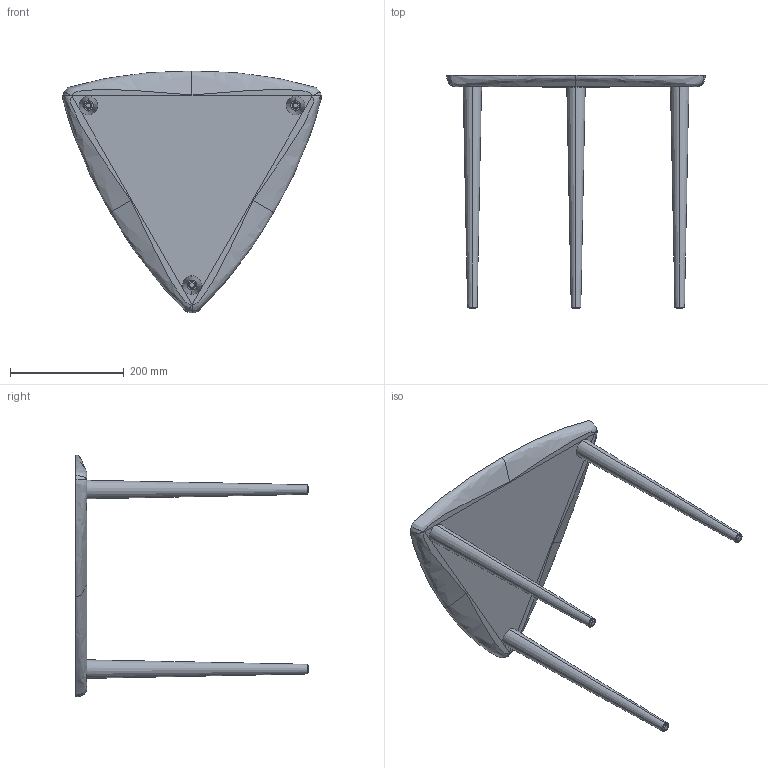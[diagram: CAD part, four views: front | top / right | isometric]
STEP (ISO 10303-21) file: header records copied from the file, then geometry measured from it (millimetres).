
FILE_DESCRIPTION (( 'STEP AP214' ), '1' );
FILE_NAME ('Umanoff_Triangular_Table.STEP', '2023-01-03T08:26:57', ( '' ), ( '' ), 'SwSTEP 2.0', 'SolidWorks 2022', '' );
FILE_SCHEMA (( 'AUTOMOTIVE_DESIGN' ));
Length unit declared in the file: millimetre
Products named in the file (1): Umanoff_Triangular_Table
Bounding box: 455.44 x 410.27 x 425.93 mm (x, y, z)
Surface area: 352933.8 mm2 (no closed solid volume)
Topology: 0 solids, 11 shells, 41 faces, 118 edges, 88 vertices
Faces by surface type: plane 14, bspline 9, cone 6, torus 6, cylinder 6
Entity records: 3316 total; most frequent: CARTESIAN_POINT 1874, ORIENTED_EDGE 181, DIRECTION 177, EDGE_CURVE 118, VERTEX_POINT 88, AXIS2_PLACEMENT_3D 75, B_SPLINE_CURVE_WITH_KNOTS 49, EDGE_LOOP 44
